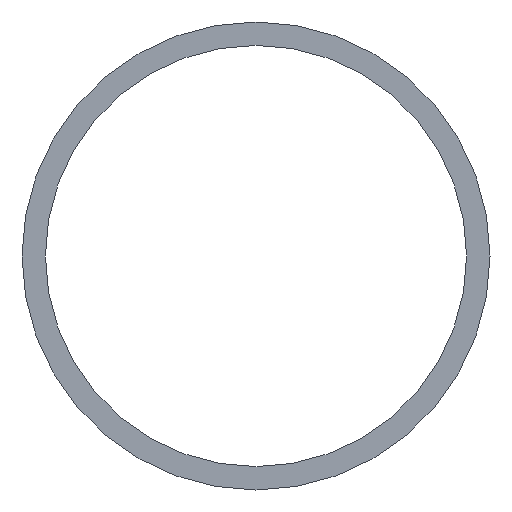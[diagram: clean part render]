
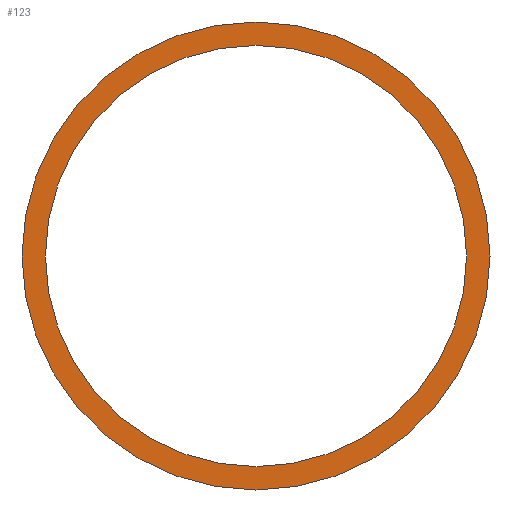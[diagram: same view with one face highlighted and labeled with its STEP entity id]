
A CAD part, front view. The second image highlights one B-rep face of the part: STEP entity #123.
In plain terms, the highlighted planar face has unit normal (0, -1, 0).
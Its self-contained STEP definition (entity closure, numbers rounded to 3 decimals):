
#39 = EDGE_CURVE('',#40,#40,#42,.T.);
#40 = VERTEX_POINT('',#41);
#41 = CARTESIAN_POINT('',(20.,-11.2,36.));
#42 = SURFACE_CURVE('',#43,(#48,#60),.PCURVE_S1.);
#43 = CIRCLE('',#44,20.);
#44 = AXIS2_PLACEMENT_3D('',#45,#46,#47);
#45 = CARTESIAN_POINT('',(0.,-11.2,36.));
#46 = DIRECTION('',(0.,-1.,0.));
#47 = DIRECTION('',(1.,0.,0.));
#48 = PCURVE('',#49,#54);
#49 = CYLINDRICAL_SURFACE('',#50,20.);
#50 = AXIS2_PLACEMENT_3D('',#51,#52,#53);
#51 = CARTESIAN_POINT('',(0.,-10.2,36.));
#52 = DIRECTION('',(0.,-1.,0.));
#53 = DIRECTION('',(1.,0.,0.));
#54 = DEFINITIONAL_REPRESENTATION('',(#55),#59);
#55 = LINE('',#56,#57);
#56 = CARTESIAN_POINT('',(0.,1.));
#57 = VECTOR('',#58,1.);
#58 = DIRECTION('',(1.,0.));
#59 = ( GEOMETRIC_REPRESENTATION_CONTEXT(2) 
PARAMETRIC_REPRESENTATION_CONTEXT() REPRESENTATION_CONTEXT('2D SPACE',''
  ) );
#60 = PCURVE('',#61,#66);
#61 = PLANE('',#62);
#62 = AXIS2_PLACEMENT_3D('',#63,#64,#65);
#63 = CARTESIAN_POINT('',(0.,-11.2,36.));
#64 = DIRECTION('',(0.,-1.,0.));
#65 = DIRECTION('',(1.,0.,0.));
#66 = DEFINITIONAL_REPRESENTATION('',(#67),#71);
#67 = CIRCLE('',#68,20.);
#68 = AXIS2_PLACEMENT_2D('',#69,#70);
#69 = CARTESIAN_POINT('',(0.,0.));
#70 = DIRECTION('',(1.,0.));
#71 = ( GEOMETRIC_REPRESENTATION_CONTEXT(2) 
PARAMETRIC_REPRESENTATION_CONTEXT() REPRESENTATION_CONTEXT('2D SPACE',''
  ) );
#123 = ADVANCED_FACE('',(#124,#127),#61,.T.);
#124 = FACE_BOUND('',#125,.T.);
#125 = EDGE_LOOP('',(#126));
#126 = ORIENTED_EDGE('',*,*,#39,.T.);
#127 = FACE_BOUND('',#128,.T.);
#128 = EDGE_LOOP('',(#129));
#129 = ORIENTED_EDGE('',*,*,#130,.F.);
#130 = EDGE_CURVE('',#131,#131,#133,.T.);
#131 = VERTEX_POINT('',#132);
#132 = CARTESIAN_POINT('',(18.,-11.2,36.));
#133 = SURFACE_CURVE('',#134,(#139,#146),.PCURVE_S1.);
#134 = CIRCLE('',#135,18.);
#135 = AXIS2_PLACEMENT_3D('',#136,#137,#138);
#136 = CARTESIAN_POINT('',(0.,-11.2,36.));
#137 = DIRECTION('',(0.,-1.,0.));
#138 = DIRECTION('',(1.,0.,0.));
#139 = PCURVE('',#61,#140);
#140 = DEFINITIONAL_REPRESENTATION('',(#141),#145);
#141 = CIRCLE('',#142,18.);
#142 = AXIS2_PLACEMENT_2D('',#143,#144);
#143 = CARTESIAN_POINT('',(0.,0.));
#144 = DIRECTION('',(1.,0.));
#145 = ( GEOMETRIC_REPRESENTATION_CONTEXT(2) 
PARAMETRIC_REPRESENTATION_CONTEXT() REPRESENTATION_CONTEXT('2D SPACE',''
  ) );
#146 = PCURVE('',#147,#152);
#147 = CYLINDRICAL_SURFACE('',#148,18.);
#148 = AXIS2_PLACEMENT_3D('',#149,#150,#151);
#149 = CARTESIAN_POINT('',(0.,-9.2,36.));
#150 = DIRECTION('',(0.,-1.,0.));
#151 = DIRECTION('',(1.,0.,0.));
#152 = DEFINITIONAL_REPRESENTATION('',(#153),#157);
#153 = LINE('',#154,#155);
#154 = CARTESIAN_POINT('',(0.,2.));
#155 = VECTOR('',#156,1.);
#156 = DIRECTION('',(1.,0.));
#157 = ( GEOMETRIC_REPRESENTATION_CONTEXT(2) 
PARAMETRIC_REPRESENTATION_CONTEXT() REPRESENTATION_CONTEXT('2D SPACE',''
  ) );
